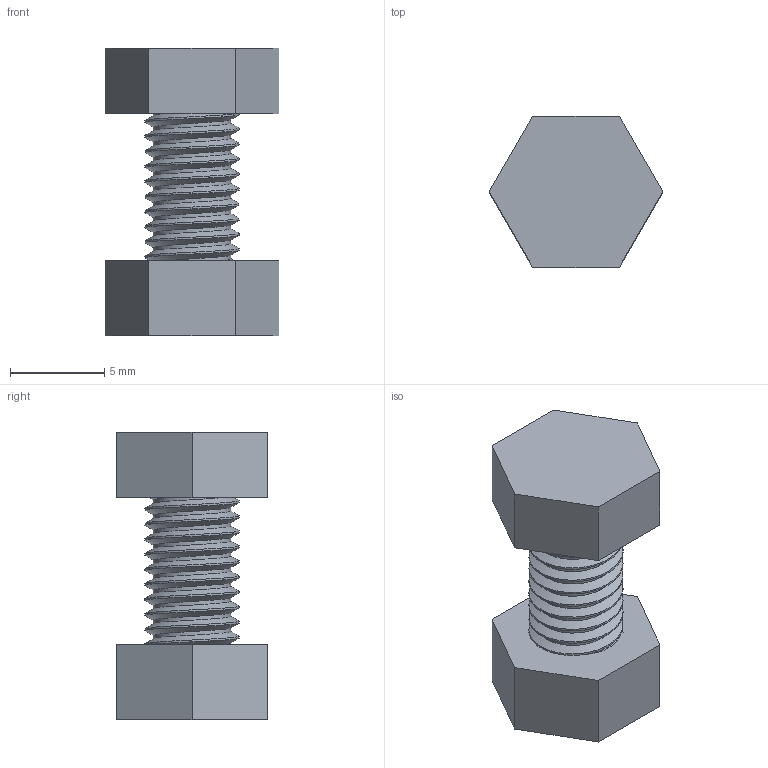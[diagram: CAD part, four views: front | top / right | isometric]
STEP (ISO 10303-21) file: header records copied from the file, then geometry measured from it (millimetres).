
FILE_DESCRIPTION(('Open CASCADE Model'),'2;1');
FILE_NAME('Open CASCADE Shape Model','2026-11-25T12:44:29',('Author'),( 'Open CASCADE'),'Open CASCADE STEP processor 8.0','Open CASCADE 8.0' ,'Unknown');
FILE_SCHEMA(('AP242_MANAGED_MODEL_BASED_3D_ENGINEERING_MIM_LF {1 0 10303 442 1 1 4 }' ));
Length unit declared in the file: millimetre
Products named in the file (2): Hand-built shank; Hand-built nut
Bounding box: 9.24 x 8 x 15.3 mm (x, y, z)
Volume: 480 mm3; surface area: 675.4 mm2
Topology: 2 solids, 2 shells, 40 faces, 105 edges, 70 vertices
Faces by surface type: plane 17, cylinder 17, bspline 6
Full cylindrical faces by diameter (mm): 4.134 x5, 5 x8
Entity records: 18582 total; most frequent: CARTESIAN_POINT 16694, DIRECTION 248, ORIENTED_EDGE 210, PCURVE 210, DEFINITIONAL_REPRESENTATION 210, LINE 161, VECTOR 161, B_SPLINE_CURVE_WITH_KNOTS 142
